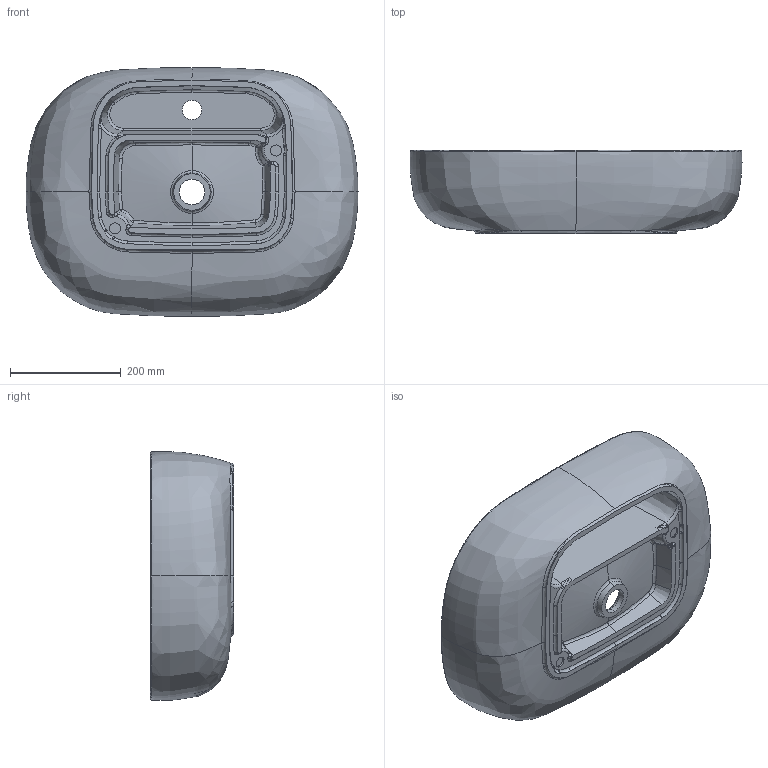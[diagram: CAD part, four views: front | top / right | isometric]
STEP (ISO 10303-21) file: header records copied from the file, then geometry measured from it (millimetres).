
FILE_DESCRIPTION (( 'STEP AP203' ), '1' );
FILE_NAME ('ELLA060450ZM.STEP', '2019-09-13T09:10:25', ( '' ), ( '' ), 'SwSTEP 2.0', 'SolidWorks 2019', '' );
FILE_SCHEMA (( 'CONFIG_CONTROL_DESIGN' ));
Length unit declared in the file: millimetre
Products named in the file (1): ELLA060450ZM
Bounding box: 600 x 150 x 449.96 mm (x, y, z)
Volume: 12749202.6 mm3; surface area: 864621.7 mm2
Topology: 1 solids, 1 shells, 258 faces, 640 edges, 376 vertices
Faces by surface type: bspline 147, cone 34, torus 31, cylinder 23, plane 14, sphere 9
Entity records: 41683 total; most frequent: CARTESIAN_POINT 36663, ORIENTED_EDGE 1238, DIRECTION 765, EDGE_CURVE 619, VERTEX_POINT 368, AXIS2_PLACEMENT_3D 355, B_SPLINE_CURVE_WITH_KNOTS 319, EDGE_LOOP 265
